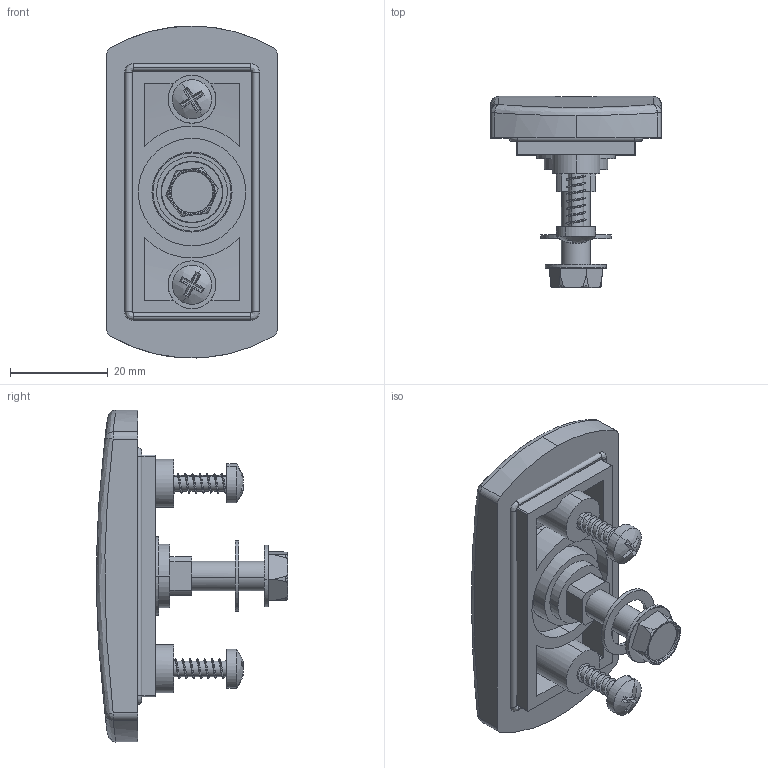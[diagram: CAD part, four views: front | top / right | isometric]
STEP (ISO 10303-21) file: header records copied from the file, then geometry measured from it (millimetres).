
FILE_DESCRIPTION (( 'STEP AP214' ), '1' );
FILE_NAME ('RW100-M.STEP', '2010-02-26T12:11:01', ( 'Techniczny' ), ( 'RST Roztocze' ), 'SwSTEP 2.0', 'SolidWorks 2010', '' );
FILE_SCHEMA (( 'AUTOMOTIVE_DESIGN' ));
Length unit declared in the file: millimetre
Products named in the file (7): 1,5x42_1; RW100-M; M6x23_1; RW100-D5_1; RW100M_Domyœlna_1; Podk³adka teflonowa_1; Wkrêt 4,1 x 23_Domyœlna_1
Assembly tree (7 placements, depth 2):
  RW100-M
    1,5x42_1
    M6x23_1
    Podk³adka teflonowa_1
    RW100-D5_1
    RW100M_Domyœlna_1
    Wkrêt 4,1 x 23_Domyœlna_1  x2
Bounding box: 35 x 39.13 x 67.99 mm (x, y, z)
Volume: 17779.3 mm3; surface area: 15802.5 mm2
Topology: 7 solids, 7 shells, 377 faces, 1005 edges, 649 vertices
Faces by surface type: plane 174, cylinder 144, bspline 41, cone 18
Entity records: 14728 total; most frequent: CARTESIAN_POINT 7430, ORIENTED_EDGE 1634, DIRECTION 1331, EDGE_CURVE 817, VERTEX_POINT 530, AXIS2_PLACEMENT_3D 496, LINE 339, VECTOR 339
